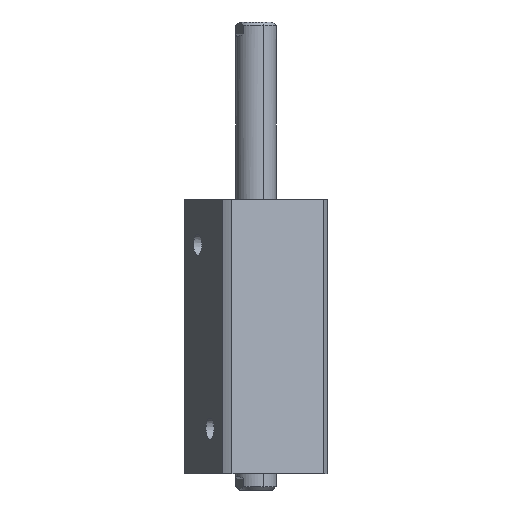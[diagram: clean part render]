
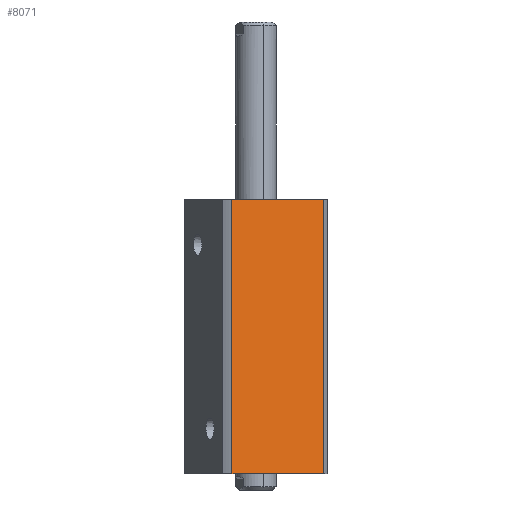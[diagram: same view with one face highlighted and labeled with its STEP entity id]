
A CAD part, front view. The second image highlights one B-rep face of the part: STEP entity #8071.
In plain terms, the highlighted planar face has unit normal (0.383, -0.924, 0) as drawn and (1, 0, 0) by its records, which use the part's own axes.
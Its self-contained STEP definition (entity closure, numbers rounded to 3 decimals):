
#404 = ORIENTED_EDGE ( 'NONE', *, *, #2227, .T. ) ;
#664 = DIRECTION ( 'NONE',  ( 0., 0., -1. ) ) ;
#1147 = VECTOR ( 'NONE', #1716, 1000. ) ;
#1373 = VERTEX_POINT ( 'NONE', #3299 ) ;
#1454 = FACE_OUTER_BOUND ( 'NONE', #8782, .T. ) ;
#1508 = VECTOR ( 'NONE', #4068, 1000. ) ;
#1692 = PLANE ( 'NONE',  #4381 ) ;
#1716 = DIRECTION ( 'NONE',  ( 0., 0., 1. ) ) ;
#2227 = EDGE_CURVE ( 'NONE', #1373, #3420, #5777, .T. ) ;
#2726 = LINE ( 'NONE', #8817, #6727 ) ;
#2948 = EDGE_CURVE ( 'NONE', #1373, #3647, #5420, .T. ) ;
#3299 = CARTESIAN_POINT ( 'NONE',  ( 35., -30.615, 0. ) ) ;
#3308 = DIRECTION ( 'NONE',  ( 0., -1., 0. ) ) ;
#3354 = VECTOR ( 'NONE', #664, 1000. ) ;
#3420 = VERTEX_POINT ( 'NONE', #8449 ) ;
#3647 = VERTEX_POINT ( 'NONE', #7800 ) ;
#3874 = CARTESIAN_POINT ( 'NONE',  ( 35., 30.615, -130. ) ) ;
#3894 = CARTESIAN_POINT ( 'NONE',  ( 35., 30.615, 170. ) ) ;
#4068 = DIRECTION ( 'NONE',  ( 0., 1., 0. ) ) ;
#4381 = AXIS2_PLACEMENT_3D ( 'NONE', #7277, #8084, #3308 ) ;
#4450 = ORIENTED_EDGE ( 'NONE', *, *, #8615, .F. ) ;
#5420 = LINE ( 'NONE', #6504, #1147 ) ;
#5777 = LINE ( 'NONE', #8841, #1508 ) ;
#6306 = ORIENTED_EDGE ( 'NONE', *, *, #9432, .F. ) ;
#6504 = CARTESIAN_POINT ( 'NONE',  ( 35., -30.615, -130. ) ) ;
#6598 = DIRECTION ( 'NONE',  ( 0., 1., 0. ) ) ;
#6727 = VECTOR ( 'NONE', #6598, 1000. ) ;
#7277 = CARTESIAN_POINT ( 'NONE',  ( 35., 35., 170. ) ) ;
#7800 = CARTESIAN_POINT ( 'NONE',  ( 35., -30.615, 170. ) ) ;
#8071 = ADVANCED_FACE ( 'NONE', ( #1454 ), #1692, .F. ) ;
#8084 = DIRECTION ( 'NONE',  ( -1., 0., 0. ) ) ;
#8449 = CARTESIAN_POINT ( 'NONE',  ( 35., 30.615, 0. ) ) ;
#8615 = EDGE_CURVE ( 'NONE', #8675, #3420, #9720, .T. ) ;
#8675 = VERTEX_POINT ( 'NONE', #3894 ) ;
#8782 = EDGE_LOOP ( 'NONE', ( #8910, #404, #4450, #6306 ) ) ;
#8817 = CARTESIAN_POINT ( 'NONE',  ( 35., 35., 170. ) ) ;
#8841 = CARTESIAN_POINT ( 'NONE',  ( 35., 35., 0. ) ) ;
#8910 = ORIENTED_EDGE ( 'NONE', *, *, #2948, .F. ) ;
#9432 = EDGE_CURVE ( 'NONE', #3647, #8675, #2726, .T. ) ;
#9720 = LINE ( 'NONE', #3874, #3354 ) ;
